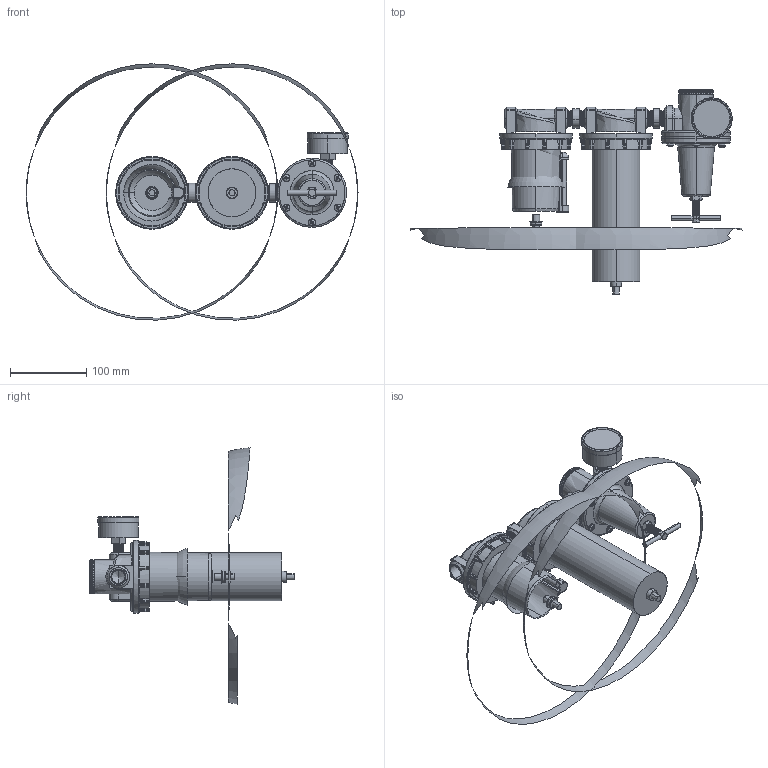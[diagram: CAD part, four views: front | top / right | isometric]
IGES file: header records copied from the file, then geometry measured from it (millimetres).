
Start section: SolidWorks IGES file using analytic representation for surfaces
Global section: file name: D:\Custom\3D繪製\FRL\FSR系列\C728#W#-04YB#.IGS; native system: SolidWorks 2014; preprocessor: SolidWorks 2014; author: Chieh_Lu; date: 160115.014218; units: millimetre
Bounding box: 436.53 x 268.5 x 337.01 mm (x, y, z)
Surface area: 252826.2 mm2 (no closed solid volume)
Topology: 0 solids, 0 shells, 1544 faces, 19083 edges, 19051 vertices
Faces by surface type: bspline 803, revolution 741
